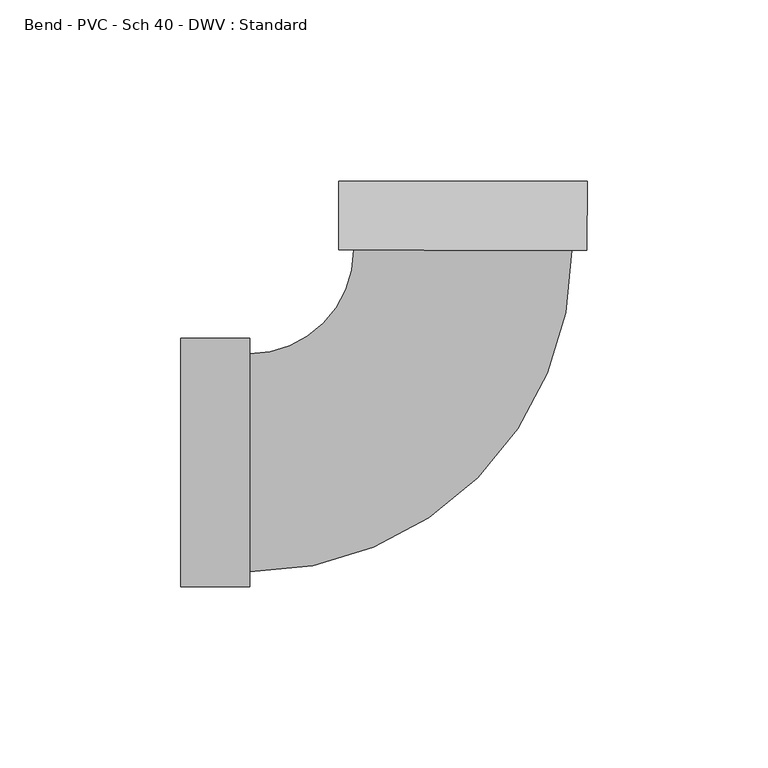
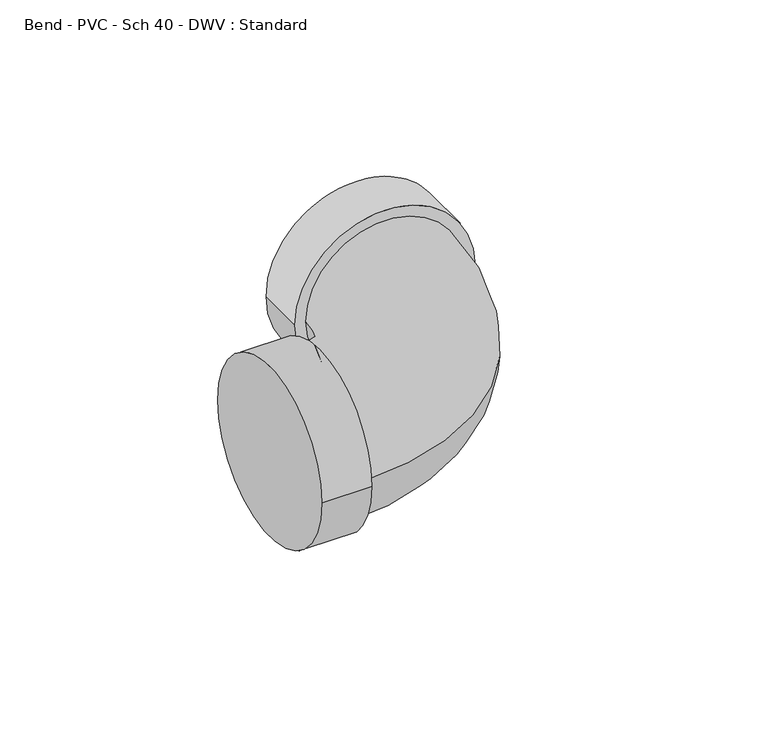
"""IFC4 building model written with IfcOpenShell, lengths in millimetres: pipe fitting geometry, Bend - PVC - Sch 40 - DWV : Standard."""

from ifc_helpers import new_model, si_unit, point, frame, origin, place, context, project, spatial, circle_curve, ellipse_curve, trimmed, source, transform, mapped, element, save
from ifc_brep_helpers import plane_surface, cylinder_surface, revolved_surface, advanced_brep


def bend_pvc_sch_40_dwv_standard_e2ec66d4(model_context):
    return source(origin(), model_context, "Body", "AdvancedBrep", [
        advanced_brep(
        [(-77.8002, -34.3154, 0.0), (-77.8002, 34.3154, 0.0), (-58.7502, -34.3154, 0.0), (-58.7502, 34.3154, 0.0), (-58.7502, -30.1625, 0.0), (-58.7502, 30.1625, 0.0), (-30.1245048, 58.7696913, 0.0), (30.2004825, 58.7306841, 0.0), (34.3533817, 58.7279988, 0.0), (-34.277404, 58.7723766, 0.0), (34.3656997, 77.7779948, 0.0), (-34.2650859, 77.8223726, 0.0)],
        [
            (0, 1, circle_curve(frame((-77.8002, 0.0, 0.0), z_axis=(-1.0, 0.0, 0.0), x_axis=(0.0, 1.0, 0.0)), 34.3154)),
            (1, 0, circle_curve(frame((-77.8002, 0.0, 0.0), z_axis=(-1.0, 0.0, 0.0), x_axis=(0.0, 1.0, 0.0)), 34.3154)),
            (2, 3, circle_curve(frame((-58.7502, 0.0, 0.0), z_axis=(1.0, 0.0, 0.0), x_axis=(0.0, 1.0, 0.0)), 34.3154)),
            (3, 2, circle_curve(frame((-58.7502, 0.0, 0.0), z_axis=(1.0, 0.0, 0.0), x_axis=(0.0, 1.0, 0.0)), 34.3154)),
            (4, 5, circle_curve(frame((-58.7502, 0.0, 0.0), z_axis=(-1.0, 0.0, 0.0), x_axis=(0.0, 1.0, 0.0)), 30.1625)),
            (5, 4, circle_curve(frame((-58.7502, 0.0, 0.0), z_axis=(-1.0, 0.0, 0.0), x_axis=(0.0, 1.0, 0.0)), 30.1625)),
            (0, 2),
            (3, 1),
            (6, 5, circle_curve(frame((-58.7502, 58.7882011, 0.0), z_axis=(0.0, 0.0, -1.0), x_axis=(0.0, -1.0, 0.0)), 28.6257011)),
            (4, 7, circle_curve(frame((-58.7502, 58.7882011, 0.0), z_axis=(0.0, 0.0, 1.0), x_axis=(0.0, -1.0, 0.0)), 88.9507011)),
            (7, 6, circle_curve(frame((0.0379889, 58.7501877, 0.0), z_axis=(-0.000646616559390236, -0.9999997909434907, 0.0), x_axis=(-0.9999997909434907, 0.000646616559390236, 0.0)), 30.1625)),
            (6, 7, circle_curve(frame((0.0379889, 58.7501877, 0.0), z_axis=(-0.000646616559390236, -0.9999997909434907, 0.0), x_axis=(-0.9999997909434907, 0.000646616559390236, 0.0)), 30.1625)),
            (8, 9, circle_curve(frame((0.0379889, 58.7501877, 0.0), z_axis=(-0.0006466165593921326, -0.9999997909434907, 0.0), x_axis=(-0.9999997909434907, 0.0006466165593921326, 0.0)), 34.3154)),
            (9, 8, circle_curve(frame((0.0379889, 58.7501877, 0.0), z_axis=(-0.0006466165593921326, -0.9999997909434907, 0.0), x_axis=(-0.9999997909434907, 0.0006466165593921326, 0.0)), 34.3154)),
            (10, 11, circle_curve(frame((0.0503069, 77.8001837, 0.0), z_axis=(0.0006466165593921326, 0.9999997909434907, 0.0), x_axis=(-0.9999997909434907, 0.0006466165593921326, 0.0)), 34.3154)),
            (11, 10, circle_curve(frame((0.0503069, 77.8001837, 0.0), z_axis=(0.0006466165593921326, 0.9999997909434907, 0.0), x_axis=(-0.9999997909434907, 0.0006466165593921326, 0.0)), 34.3154)),
            (8, 10),
            (11, 9),
        ],
        [
            plane_surface(frame((-77.8002, 0.0, 0.0), z_axis=(-1.0, 0.0, 0.0), x_axis=(0.0, 0.0, 1.0))),
            plane_surface(frame((-58.7502, 0.0, 0.0), z_axis=(1.0, 0.0, 0.0), x_axis=(0.0, 0.0, 1.0))),
            cylinder_surface(frame((-77.8002, 0.0, 0.0), z_axis=(-1.0, 0.0, 0.0), x_axis=(0.0, 1.0, 0.0)), 34.3154),
            revolved_surface(trimmed(ellipse_curve(frame((-58.7502, 0.0, 0.0), z_axis=(-1.0, 0.0, 0.0), x_axis=(0.0, 1.0, 0.0)), 30.1625, 30.1625), [point((-58.7502, -30.1625, 0.0))], [point((-58.7502, 30.1625, 0.0))], True, "CARTESIAN"), (-58.7502, 58.7882011, 0.0), (0.0, 0.0, 1.0)),
            revolved_surface(trimmed(ellipse_curve(frame((-58.7502, 0.0, 0.0), z_axis=(-1.0, 0.0, 0.0), x_axis=(0.0, 1.0, 0.0)), 30.1625, 30.1625), [point((-58.7502, 30.1625, 0.0))], [point((-58.7502, -30.1625, 0.0))], True, "CARTESIAN"), (-58.7502, 58.7882011, 0.0), (0.0, 0.0, 1.0)),
            plane_surface(frame((0.0379889, 58.7501877, 0.0), z_axis=(-0.0006466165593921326, -0.9999997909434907, 0.0), x_axis=(0.0, 0.0, 1.0))),
            plane_surface(frame((0.0503069, 77.8001837, 0.0), z_axis=(0.0006466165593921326, 0.9999997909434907, 0.0), x_axis=(0.0, 0.0, 1.0))),
            cylinder_surface(frame((0.0379889, 58.7501877, 0.0), z_axis=(-0.0006466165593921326, -0.9999997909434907, 0.0), x_axis=(-0.9999997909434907, 0.0006466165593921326, 0.0)), 34.3154),
        ],
        [
            (0, [[1, 2]]),
            (1, [[3, 4], [5, 6]]),
            (2, [[-1, 7, -4, 8]]),
            (2, [[-2, -8, -3, -7]]),
            (3, [[9, -5, 10, 11]]),
            (4, [[-9, 12, -10, -6]]),
            (5, [[13, 14], [-11, -12]]),
            (6, [[15, 16]]),
            (7, [[-13, 17, -16, 18]]),
            (7, [[-14, -18, -15, -17]]),
        ],
    ),
    ])


if __name__ == "__main__":
    model = new_model("IFC4")
    model_context = context("Model", 3, world=origin())
    ifc_project = project(units=[si_unit("LENGTHUNIT", "METRE", prefix="MILLI")], contexts=[model_context])
    site = spatial("IfcSite", under=ifc_project)
    building = spatial("IfcBuilding", under=site)
    placement = place(None, origin())
    bend_pvc_sch_40_dwv_standard_shape = bend_pvc_sch_40_dwv_standard_e2ec66d4(model_context)
    element("IfcPipeFitting", 1, ObjectType="Bend - PVC - Sch 40 - DWV : Standard", at=placement, inside=building, context=model_context, shape_type="MappedRepresentation", body=[
        mapped(bend_pvc_sch_40_dwv_standard_shape, transform((0.0, 0.0, 0.0), x_axis=(1.0, 0.0, 0.0), y_axis=(0.0, 1.0, 0.0), z_axis=(0.0, 0.0, 1.0))),
    ])
    save(model, "model.ifc")
